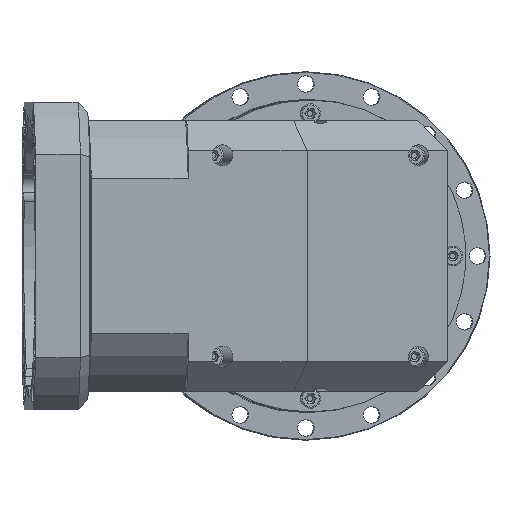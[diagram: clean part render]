
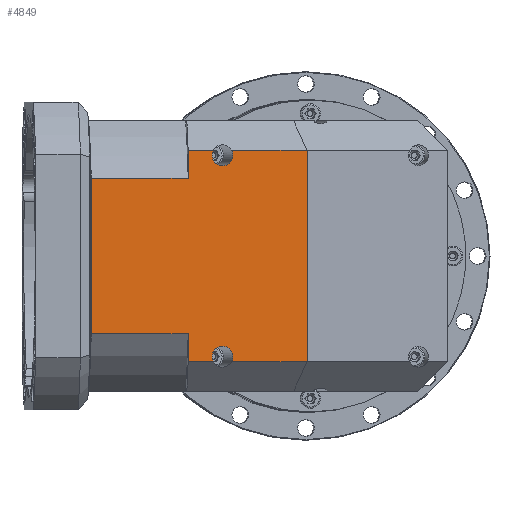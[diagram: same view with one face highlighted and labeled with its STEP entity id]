
A CAD part, front view. The second image highlights one B-rep face of the part: STEP entity #4849.
In plain terms, the highlighted planar face has unit normal (0.044, -0.999, 0).
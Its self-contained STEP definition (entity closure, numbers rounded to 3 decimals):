
#291=CARTESIAN_POINT('',(-124.689,-193.958,-86.));
#292=VERTEX_POINT('',#291);
#293=CARTESIAN_POINT('',(-139.7,-194.624,-86.));
#294=VERTEX_POINT('',#293);
#295=CARTESIAN_POINT('',(-132.195,-194.291,-82.024));
#296=DIRECTION('',(0.044,-0.999,0.0));
#297=DIRECTION('',(0.999,0.044,0.0));
#298=AXIS2_PLACEMENT_3D('',#295,#296,#297);
#299=CIRCLE('',#298,8.5);
#300=EDGE_CURVE('',#292,#294,#299,.T.);
#356=CARTESIAN_POINT('',(-139.7,-194.624,86.));
#357=VERTEX_POINT('',#356);
#358=CARTESIAN_POINT('',(-124.689,-193.958,86.));
#359=VERTEX_POINT('',#358);
#360=CARTESIAN_POINT('',(-132.195,-194.291,82.024));
#361=DIRECTION('',(0.044,-0.999,0.0));
#362=DIRECTION('',(0.999,0.044,0.0));
#363=AXIS2_PLACEMENT_3D('',#360,#361,#362);
#364=CIRCLE('',#363,8.5);
#365=EDGE_CURVE('',#357,#359,#364,.T.);
#4764=CARTESIAN_POINT('',(-239.565,-199.056,-110.));
#4765=DIRECTION('',(0.044,-0.999,0.0));
#4766=DIRECTION('',(0.999,0.044,0.0));
#4767=AXIS2_PLACEMENT_3D('',#4764,#4765,#4766);
#4768=PLANE('',#4767);
#4769=CARTESIAN_POINT('',(-160.143,-195.532,63.474));
#4770=VERTEX_POINT('',#4769);
#4771=CARTESIAN_POINT('',(-239.065,-199.034,63.474));
#4772=VERTEX_POINT('',#4771);
#4773=CARTESIAN_POINT('',(-160.143,-195.532,63.474));
#4774=DIRECTION('',(-0.999,-0.044,0.0));
#4775=VECTOR('',#4774,79.);
#4776=LINE('',#4773,#4775);
#4777=EDGE_CURVE('',#4770,#4772,#4776,.T.);
#4778=ORIENTED_EDGE('',*,*,#4777,.T.);
#4779=CARTESIAN_POINT('',(-239.065,-199.034,-63.474));
#4780=VERTEX_POINT('',#4779);
#4781=CARTESIAN_POINT('',(-239.065,-199.034,63.474));
#4782=DIRECTION('',(0.0,0.0,-1.0));
#4783=VECTOR('',#4782,126.949);
#4784=LINE('',#4781,#4783);
#4785=EDGE_CURVE('',#4772,#4780,#4784,.T.);
#4786=ORIENTED_EDGE('',*,*,#4785,.T.);
#4787=CARTESIAN_POINT('',(-160.143,-195.532,-63.474));
#4788=VERTEX_POINT('',#4787);
#4789=CARTESIAN_POINT('',(-239.065,-199.034,-63.474));
#4790=DIRECTION('',(0.999,0.044,0.0));
#4791=VECTOR('',#4790,79.);
#4792=LINE('',#4789,#4791);
#4793=EDGE_CURVE('',#4780,#4788,#4792,.T.);
#4794=ORIENTED_EDGE('',*,*,#4793,.T.);
#4795=CARTESIAN_POINT('',(-160.143,-195.532,-86.));
#4796=VERTEX_POINT('',#4795);
#4797=CARTESIAN_POINT('',(-160.143,-195.532,-63.474));
#4798=DIRECTION('',(0.0,0.0,-1.0));
#4799=VECTOR('',#4798,22.526);
#4800=LINE('',#4797,#4799);
#4801=EDGE_CURVE('',#4788,#4796,#4800,.T.);
#4802=ORIENTED_EDGE('',*,*,#4801,.T.);
#4803=CARTESIAN_POINT('',(-160.143,-195.532,-86.));
#4804=DIRECTION('',(0.999,0.044,0.0));
#4805=VECTOR('',#4804,20.463);
#4806=LINE('',#4803,#4805);
#4807=EDGE_CURVE('',#4796,#294,#4806,.T.);
#4808=ORIENTED_EDGE('',*,*,#4807,.T.);
#4809=ORIENTED_EDGE('',*,*,#300,.F.);
#4810=CARTESIAN_POINT('',(-63.238,-191.231,-86.));
#4811=VERTEX_POINT('',#4810);
#4812=CARTESIAN_POINT('',(-124.689,-193.958,-86.));
#4813=DIRECTION('',(0.999,0.044,0.0));
#4814=VECTOR('',#4813,61.511);
#4815=LINE('',#4812,#4814);
#4816=EDGE_CURVE('',#292,#4811,#4815,.T.);
#4817=ORIENTED_EDGE('',*,*,#4816,.T.);
#4818=CARTESIAN_POINT('',(-63.238,-191.231,86.));
#4819=VERTEX_POINT('',#4818);
#4820=CARTESIAN_POINT('',(-63.238,-191.231,86.));
#4821=DIRECTION('',(0.0,0.0,-1.0));
#4822=VECTOR('',#4821,172.);
#4823=LINE('',#4820,#4822);
#4824=EDGE_CURVE('',#4819,#4811,#4823,.T.);
#4825=ORIENTED_EDGE('',*,*,#4824,.F.);
#4826=CARTESIAN_POINT('',(-63.238,-191.231,86.));
#4827=DIRECTION('',(-0.999,-0.044,0.0));
#4828=VECTOR('',#4827,61.511);
#4829=LINE('',#4826,#4828);
#4830=EDGE_CURVE('',#4819,#359,#4829,.T.);
#4831=ORIENTED_EDGE('',*,*,#4830,.T.);
#4832=ORIENTED_EDGE('',*,*,#365,.F.);
#4833=CARTESIAN_POINT('',(-160.143,-195.532,86.));
#4834=VERTEX_POINT('',#4833);
#4835=CARTESIAN_POINT('',(-139.7,-194.624,86.));
#4836=DIRECTION('',(-0.999,-0.044,0.0));
#4837=VECTOR('',#4836,20.463);
#4838=LINE('',#4835,#4837);
#4839=EDGE_CURVE('',#357,#4834,#4838,.T.);
#4840=ORIENTED_EDGE('',*,*,#4839,.T.);
#4841=CARTESIAN_POINT('',(-160.143,-195.532,86.));
#4842=DIRECTION('',(0.0,0.0,-1.0));
#4843=VECTOR('',#4842,22.526);
#4844=LINE('',#4841,#4843);
#4845=EDGE_CURVE('',#4834,#4770,#4844,.T.);
#4846=ORIENTED_EDGE('',*,*,#4845,.T.);
#4847=EDGE_LOOP('',(#4778,#4786,#4794,#4802,#4808,#4809,#4817,#4825,#4831,#4832,#4840,#4846));
#4848=FACE_OUTER_BOUND('',#4847,.T.);
#4849=ADVANCED_FACE('',(#4848),#4768,.T.);
